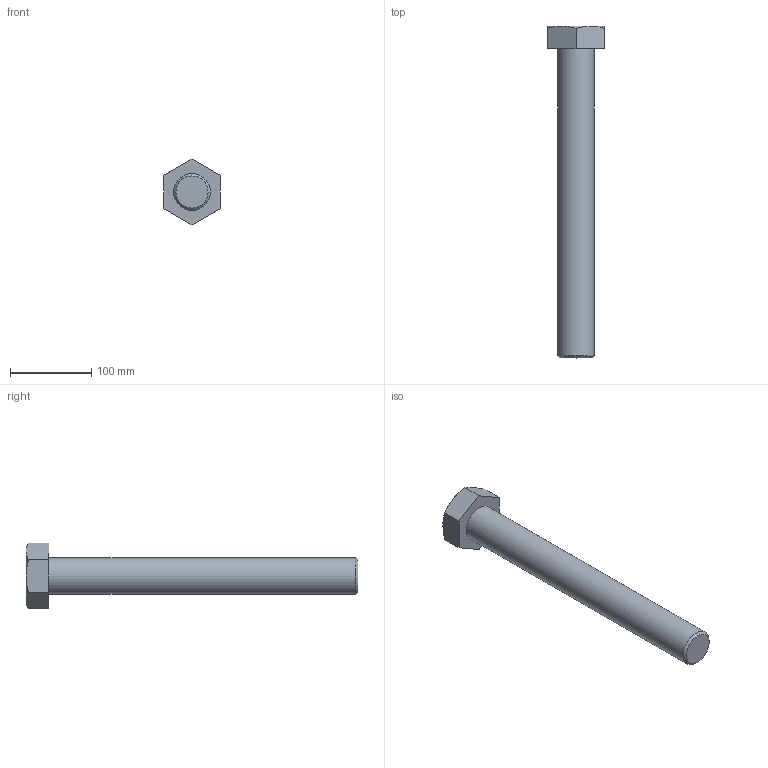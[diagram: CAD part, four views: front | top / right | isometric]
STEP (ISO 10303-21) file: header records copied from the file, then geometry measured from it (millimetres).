
FILE_DESCRIPTION(/* description */ (''),/* implementation_level */ '2;1');
FILE_NAME(/* name */ 'C:\Users\unitec\Documents\Inventor\各種小物\JIS\JIS B 1180 六角ボルト 等級C\hbc45\M45x380.stp',/* time_stamp */ '2015-02-13T14:58:22+09:00',/* author */ ('unitec'),/* organization */ (''),/* preprocessor_version */ 'ST-DEVELOPER v15.2',/* originating_system */ 'Autodesk Inventor 2014',/* authorisation */ '');
FILE_SCHEMA (('AUTOMOTIVE_DESIGN { 1 0 10303 214 3 1 1 }'));
Length unit declared in the file: millimetre
Products named in the file (1): M45x380
Bounding box: 70 x 408 x 80.83 mm (x, y, z)
Volume: 722293.8 mm3; surface area: 68560.6 mm2
Topology: 1 solids, 1 shells, 17 faces, 35 edges, 21 vertices
Faces by surface type: plane 9, cone 7, cylinder 1
Full cylindrical faces by diameter (mm): 45 x1
Entity records: 441 total; most frequent: CARTESIAN_POINT 96, ORIENTED_EDGE 66, DIRECTION 66, EDGE_CURVE 33, AXIS2_PLACEMENT_3D 27, VERTEX_POINT 21, EDGE_LOOP 20, ADVANCED_FACE 17
